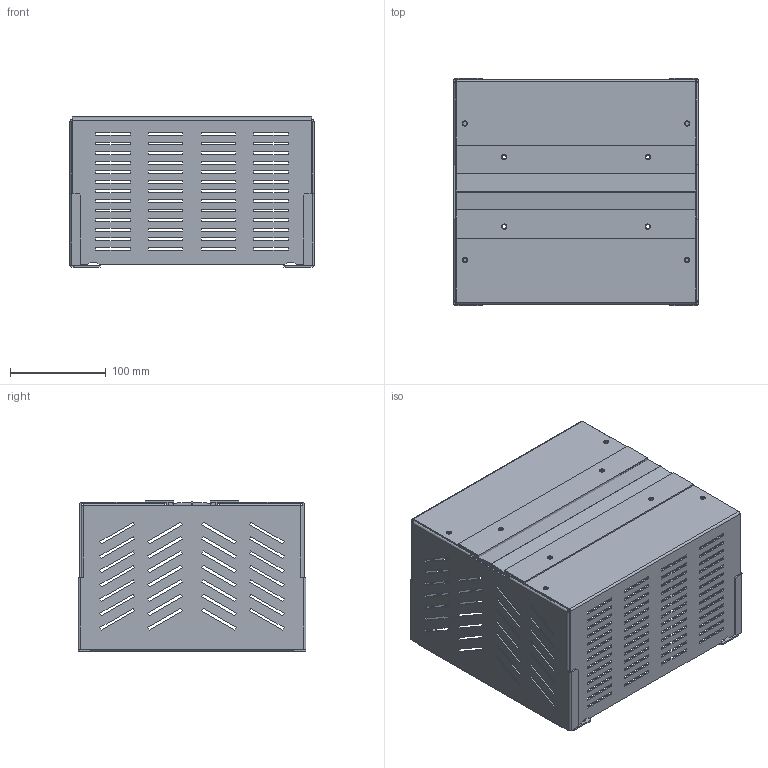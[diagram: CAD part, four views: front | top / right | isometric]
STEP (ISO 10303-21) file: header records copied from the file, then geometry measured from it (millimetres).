
FILE_DESCRIPTION(('CAx-IF Rec.Pracs.---Model Styling and Organization---1.2---2011-12-15','CAx-IF Rec.Pracs.---Geometric and Assembly Validation Properties---4.1---2014-06-16','CAx-IF Rec.Pracs.---PMI Polyline Presentation---2.0---2013-05-24'),'2;1');
FILE_NAME('R5BCB250134P.stp','2021-05-05T15:03:38+03:00',(''),(''),'STEP Interface 4.4 by CT CoreTechnologie','3D_Evolution4.4 by CT CoreTechnologie','');
FILE_SCHEMA(('AUTOMOTIVE_DESIGN { 1 0 10303 214 1 1 1 1 }'));
Length unit declared in the file: millimetre
Products named in the file (7): R5BCB250134P; R5IB_R5IB11(1); R5IB brush_-02; R5IB aluminium_-02; R5IB_R5IB11(2); RB.1049.00.00.0_-00; RB.1048.00.00.0_-00
Assembly tree (10 placements, depth 3):
  R5BCB250134P
    R5IB_R5IB11(1)
      R5IB brush_-02
      R5IB aluminium_-02
    R5IB_R5IB11(2)
      R5IB brush_-02
      R5IB aluminium_-02
    RB.1049.00.00.0_-00  x2
    RB.1048.00.00.0_-00  x2
Bounding box: 255 x 238 x 157.1 mm (x, y, z)
Surface area: 482953.5 mm2 (no closed solid volume)
Topology: 0 solids, 14 shells, 940 faces, 2720 edges, 1808 vertices
Faces by surface type: plane 868, cylinder 72
Entity records: 15924 total; most frequent: CARTESIAN_POINT 2745, ORIENTED_EDGE 2720, DIRECTION 2394, EDGE_CURVE 1360, VECTOR 1288, LINE 1288, VERTEX_POINT 904, EDGE_LOOP 650
